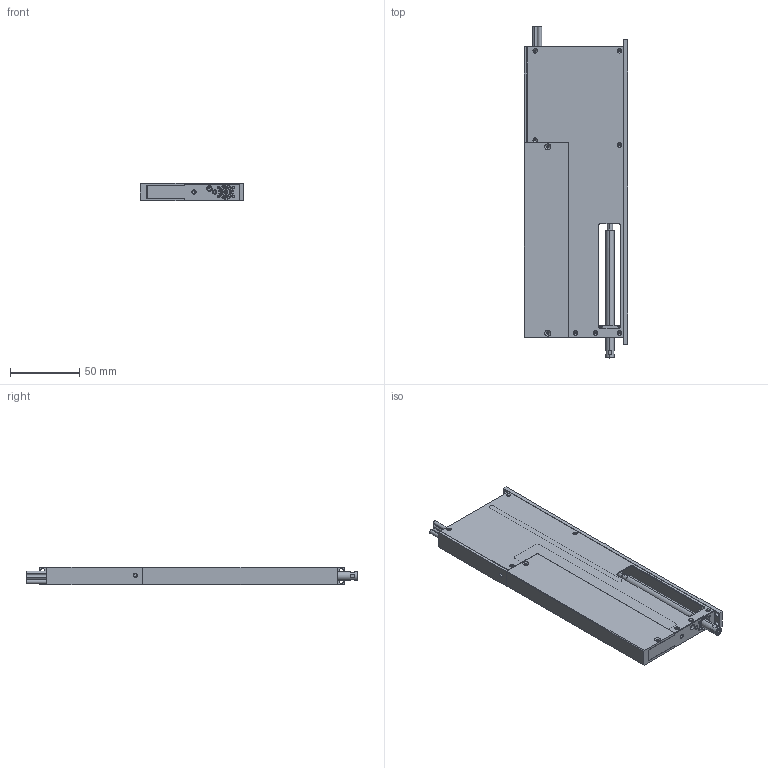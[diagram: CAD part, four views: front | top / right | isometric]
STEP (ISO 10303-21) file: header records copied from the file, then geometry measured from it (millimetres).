
FILE_DESCRIPTION (( 'STEP AP203' ), '1' );
FILE_NAME ('LCA13-050-XX-6_B.STEP', '2019-04-18T23:21:53', ( '' ), ( '' ), 'SwSTEP 2.0', 'SolidWorks 2018', '' );
FILE_SCHEMA (( 'CONFIG_CONTROL_DESIGN' ));
Length unit declared in the file: millimetre
Products named in the file (11): 16594-50_C; LCA13-050-XX-6_B; 24658-02_A; 236361-01_B; 180101-01_B; 11632-51_A; 11632-50_D; LCR13 DUM CABLE; 565025-04, SCREW, PH PHILIPS, M1.6X4, JIS CLASS 3, 18-8SS_CSPPN3P-ST3W-M1_6-4; 51301-04, SCREW, SHCS, M1.6X4, 18-8 SS_91292A260; 140241-01_B
Assembly tree (14 placements, depth 3):
  LCA13-050-XX-6_B
    11632-51_A
      11632-50_D
    24658-02_A
    180101-01_B
    51301-04, SCREW, SHCS, M1.6X4, 18-8 SS_91292A260
    565025-04, SCREW, PH PHILIPS, M1.6X4, JIS CLASS 3, 18-8SS_CSPPN3P-ST3W-M1_6-4  x4
    LCR13 DUM CABLE  x2
    236361-01_B
    16594-50_C
    140241-01_B
Bounding box: 75 x 240 x 13 mm (x, y, z)
Volume: 72158.1 mm3; surface area: 79767 mm2
Topology: 17 solids, 17 shells, 802 faces, 2036 edges, 1252 vertices
Faces by surface type: plane 292, cylinder 276, cone 226, torus 8
Entity records: 23101 total; most frequent: DIRECTION 3958, CARTESIAN_POINT 3902, ORIENTED_EDGE 3596, EDGE_CURVE 1798, AXIS2_PLACEMENT_3D 1456, VERTEX_POINT 1128, VECTOR 1046, LINE 1046
